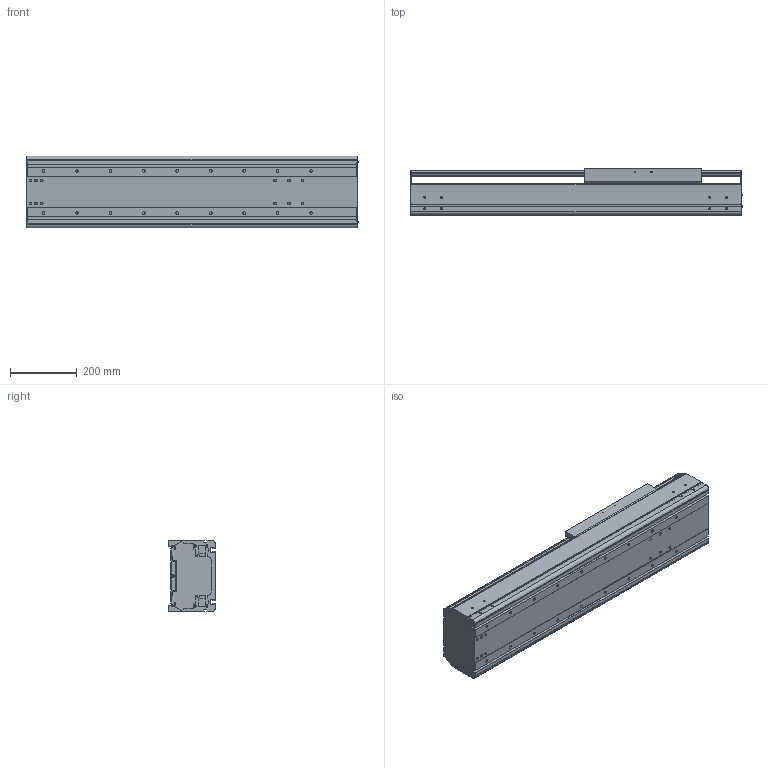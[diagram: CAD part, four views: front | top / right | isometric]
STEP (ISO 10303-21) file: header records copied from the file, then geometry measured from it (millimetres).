
FILE_DESCRIPTION((''),'2;1');
FILE_NAME('BE60J-ST-L_N-45_IGS_PRT','2017-06-18T',(' '),(''),'PRO/ENGINEER BY PARAMETRIC TECHNOLOGY CORPORATION, 2015030','PRO/ENGINEER BY PARAMETRIC TECHNOLOGY CORPORATION, 2015030','');
FILE_SCHEMA(('CONFIG_CONTROL_DESIGN'));
Length unit declared in the file: millimetre
Products named in the file (1): BE60J-ST-L_N-45_IGS_PRT
Bounding box: 992.4 x 140 x 214 mm (x, y, z)
Volume: 8366337.3 mm3; surface area: 2256547.6 mm2
Topology: 2 solids, 132 shells, 1399 faces, 3824 edges, 2554 vertices
Faces by surface type: cylinder 684, plane 577, cone 90, torus 24, sphere 24
Entity records: 46071 total; most frequent: CARTESIAN_POINT 10084, DIRECTION 7608, ORIENTED_EDGE 7084, EDGE_CURVE 3768, AXIS2_PLACEMENT_3D 2830, VERTEX_POINT 2554, VECTOR 1948, LINE 1948
